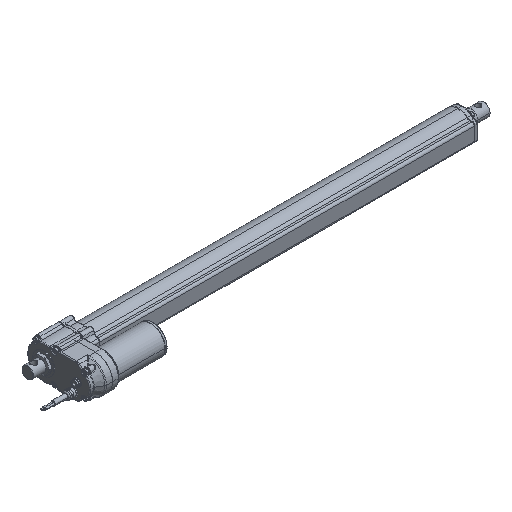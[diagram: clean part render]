
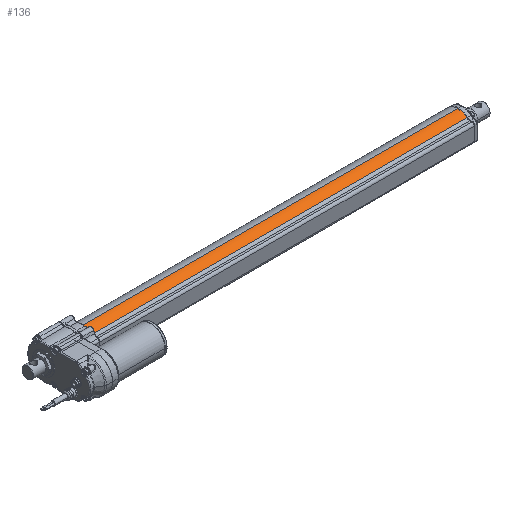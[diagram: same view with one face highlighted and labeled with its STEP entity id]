
A CAD part, isometric view. The second image highlights one B-rep face of the part: STEP entity #136.
In plain terms, the highlighted cylindrical face has radius 30.5 mm (diameter 61 mm), a partial arc.
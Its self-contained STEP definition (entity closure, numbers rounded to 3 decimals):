
#136=ADVANCED_FACE('',(#1138),#1139,.T.);
#1138=FACE_OUTER_BOUND('',#3063,.T.);
#1139=CYLINDRICAL_SURFACE('',#3064,30.5);
#3063=EDGE_LOOP('',(#8479,#8480,#8481,#8482));
#3064=AXIS2_PLACEMENT_3D('',#8483,#8484,#8485);
#8479=ORIENTED_EDGE('',*,*,#15518,.F.);
#8480=ORIENTED_EDGE('',*,*,#15519,.F.);
#8481=ORIENTED_EDGE('',*,*,#15520,.T.);
#8482=ORIENTED_EDGE('',*,*,#15521,.F.);
#8483=CARTESIAN_POINT('',(94.3,0.,0.));
#8484=DIRECTION('',(1.0,0.,0.));
#8485=DIRECTION('',(0.,0.,1.0));
#15518=EDGE_CURVE('',#18125,#18126,#18127,.T.);
#15519=EDGE_CURVE('',#18128,#18125,#18129,.T.);
#15520=EDGE_CURVE('',#18128,#18130,#18131,.T.);
#15521=EDGE_CURVE('',#18126,#18130,#18132,.T.);
#18125=VERTEX_POINT('',#23105);
#18126=VERTEX_POINT('',#23106);
#18127=LINE('',#23107,#23108);
#18128=VERTEX_POINT('',#23109);
#18129=CIRCLE('',#23110,30.5);
#18130=VERTEX_POINT('',#23111);
#18131=LINE('',#23112,#23113);
#18132=CIRCLE('',#23114,30.5);
#23105=CARTESIAN_POINT('',(94.3,0.,30.5));
#23106=CARTESIAN_POINT('',(939.5,0.,30.5));
#23107=CARTESIAN_POINT('',(94.3,0.,30.5));
#23108=VECTOR('',#38996,1.0);
#23109=CARTESIAN_POINT('',(94.3,-20.49,22.593));
#23110=AXIS2_PLACEMENT_3D('',#38997,#38998,#38999);
#23111=CARTESIAN_POINT('',(939.5,-20.49,22.593));
#23112=CARTESIAN_POINT('',(94.3,-20.49,22.593));
#23113=VECTOR('',#39000,1.0);
#23114=AXIS2_PLACEMENT_3D('',#39001,#39002,#39003);
#38996=DIRECTION('',(1.0,0.,0.));
#38997=CARTESIAN_POINT('',(94.3,0.,0.));
#38998=DIRECTION('',(-1.0,0.,0.));
#38999=DIRECTION('',(0.,0.,1.0));
#39000=DIRECTION('',(1.0,0.,0.));
#39001=CARTESIAN_POINT('',(939.5,0.,0.));
#39002=DIRECTION('',(1.0,0.,0.));
#39003=DIRECTION('',(0.,0.,1.0));
